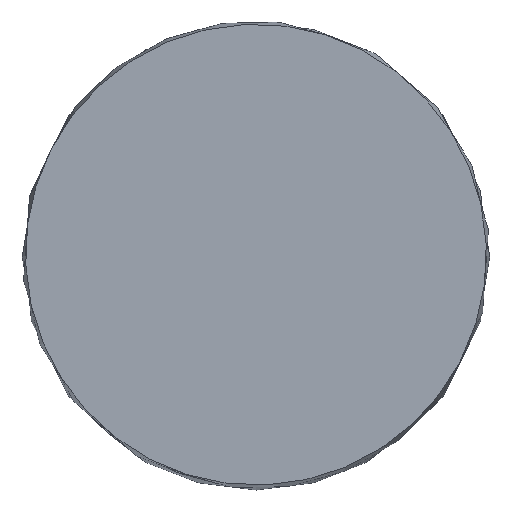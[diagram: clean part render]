
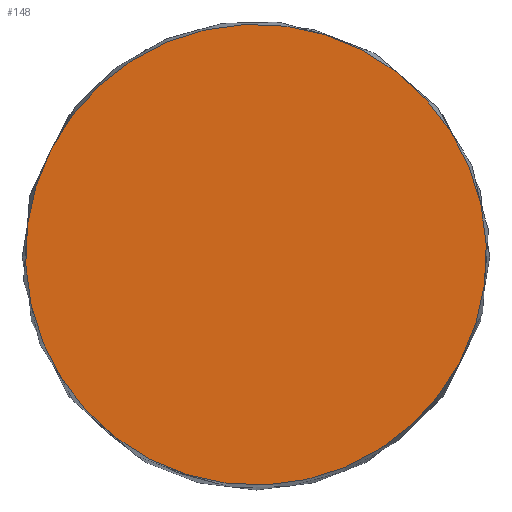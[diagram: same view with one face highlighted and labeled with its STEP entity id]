
A CAD part, top view. The second image highlights one B-rep face of the part: STEP entity #148.
In plain terms, the highlighted planar face has unit normal (0, 0, 1).
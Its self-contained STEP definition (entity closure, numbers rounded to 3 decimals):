
#131=PLANE('',#254);
#138=FACE_OUTER_BOUND('',#181,.T.);
#148=ADVANCED_FACE('',(#138),#131,.T.);
#181=EDGE_LOOP('',(#201));
#201=ORIENTED_EDGE('',*,*,#225,.T.);
#215=VERTEX_POINT('',#356);
#225=EDGE_CURVE('',#215,#215,#235,.T.);
#235=CIRCLE('',#253,1.23);
#253=AXIS2_PLACEMENT_3D('',#355,#289,#290);
#254=AXIS2_PLACEMENT_3D('',#357,#291,#292);
#289=DIRECTION('',(0.,0.,1.));
#290=DIRECTION('',(0.924,0.383,0.));
#291=DIRECTION('',(0.,0.,1.));
#292=DIRECTION('',(0.924,0.383,0.));
#355=CARTESIAN_POINT('',(-0.103,-0.208,4.8));
#356=CARTESIAN_POINT('',(1.033,0.263,4.8));
#357=CARTESIAN_POINT('',(-0.103,-0.208,4.8));
